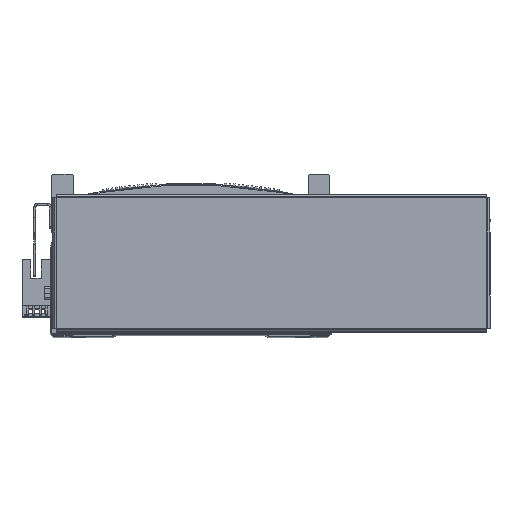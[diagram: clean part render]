
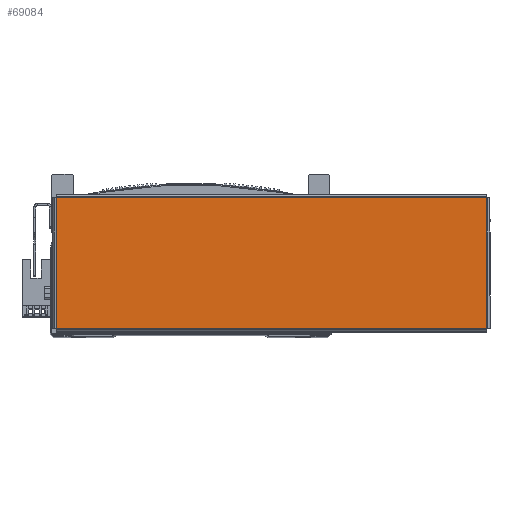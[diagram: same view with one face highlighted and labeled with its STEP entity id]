
A CAD part, top view. The second image highlights one B-rep face of the part: STEP entity #69084.
In plain terms, the highlighted planar face has unit normal (0, 0, 1) as drawn and (0, -1, 0) by its records, which use the part's own axes.
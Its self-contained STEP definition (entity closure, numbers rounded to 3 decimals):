
#1895 = AXIS2_PLACEMENT_3D ( 'NONE', #17226, #17179, #17186 ) ;
#2451 = VERTEX_POINT ( 'NONE', #18390 ) ;
#2535 = VERTEX_POINT ( 'NONE', #18449 ) ;
#2640 = VERTEX_POINT ( 'NONE', #18446 ) ;
#2649 = VERTEX_POINT ( 'NONE', #18525 ) ;
#10364 = FACE_OUTER_BOUND ( 'NONE', #30849, .T. ) ;
#11587 = ORIENTED_EDGE ( 'NONE', *, *, #24515, .T. ) ;
#11621 = ORIENTED_EDGE ( 'NONE', *, *, #24501, .T. ) ;
#11681 = ORIENTED_EDGE ( 'NONE', *, *, #24538, .T. ) ;
#11724 = ORIENTED_EDGE ( 'NONE', *, *, #24506, .T. ) ;
#17179 = DIRECTION ( 'NONE',  ( 0., 1., 0. ) ) ;
#17186 = DIRECTION ( 'NONE',  ( 0., 0., 1. ) ) ;
#17192 = PLANE ( 'NONE',  #1895 ) ;
#17226 = CARTESIAN_POINT ( 'NONE',  ( 0., -1., 0. ) ) ;
#18390 = CARTESIAN_POINT ( 'NONE',  ( -103.513, -1., 31.363 ) ) ;
#18446 = CARTESIAN_POINT ( 'NONE',  ( 103.513, -1., -31.363 ) ) ;
#18449 = CARTESIAN_POINT ( 'NONE',  ( 103.513, -1., 31.363 ) ) ;
#18525 = CARTESIAN_POINT ( 'NONE',  ( -103.513, -1., -31.363 ) ) ;
#24501 = EDGE_CURVE ( 'NONE', #2451, #2649, #53396, .T. ) ;
#24506 = EDGE_CURVE ( 'NONE', #2649, #2640, #53844, .T. ) ;
#24515 = EDGE_CURVE ( 'NONE', #2535, #2451, #53160, .T. ) ;
#24538 = EDGE_CURVE ( 'NONE', #2640, #2535, #56028, .T. ) ;
#30849 = EDGE_LOOP ( 'NONE', ( #11587, #11621, #11724, #11681 ) ) ;
#53160 = LINE ( 'NONE', #55090, #53329 ) ;
#53329 = VECTOR ( 'NONE', #55073, 1000. ) ;
#53396 = LINE ( 'NONE', #55053, #53487 ) ;
#53487 = VECTOR ( 'NONE', #55020, 1000. ) ;
#53844 = LINE ( 'NONE', #55041, #53926 ) ;
#53926 = VECTOR ( 'NONE', #55061, 1000. ) ;
#55020 = DIRECTION ( 'NONE',  ( 0., 0., -1. ) ) ;
#55041 = CARTESIAN_POINT ( 'NONE',  ( -103.543, -1., -31.363 ) ) ;
#55053 = CARTESIAN_POINT ( 'NONE',  ( -103.513, -1., 31.393 ) ) ;
#55061 = DIRECTION ( 'NONE',  ( 1., 0., 0. ) ) ;
#55073 = DIRECTION ( 'NONE',  ( -1., 0., 0. ) ) ;
#55090 = CARTESIAN_POINT ( 'NONE',  ( 103.543, -1., 31.363 ) ) ;
#55129 = CARTESIAN_POINT ( 'NONE',  ( 103.513, -1., -31.393 ) ) ;
#55134 = DIRECTION ( 'NONE',  ( 0., 0., 1. ) ) ;
#56012 = VECTOR ( 'NONE', #55134, 1000. ) ;
#56028 = LINE ( 'NONE', #55129, #56012 ) ;
#69084 = ADVANCED_FACE ( 'NONE', ( #10364 ), #17192, .F. ) ;
